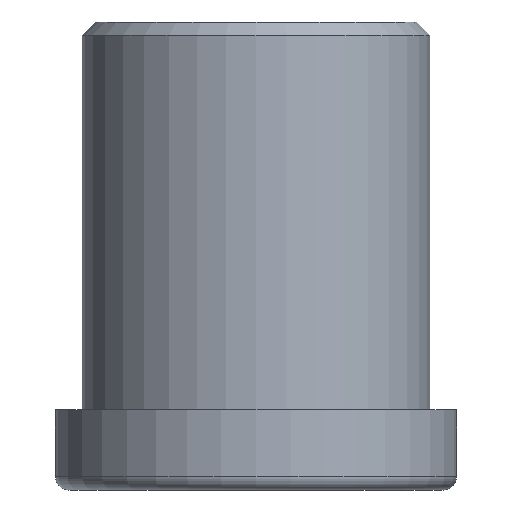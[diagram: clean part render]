
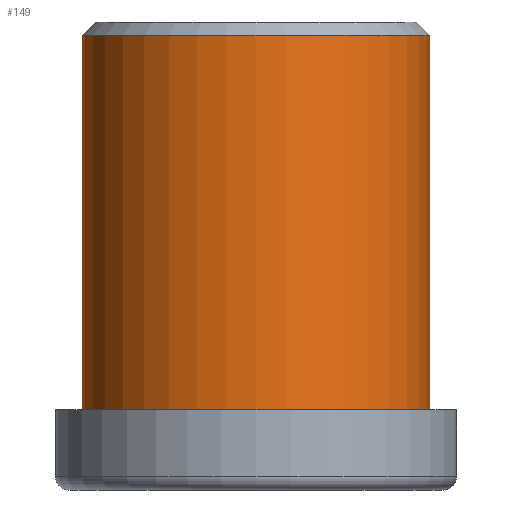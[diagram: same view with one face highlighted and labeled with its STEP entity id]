
A CAD part, front view. The second image highlights one B-rep face of the part: STEP entity #149.
In plain terms, the highlighted cylindrical face has radius 13 mm (diameter 26 mm), a full revolution.
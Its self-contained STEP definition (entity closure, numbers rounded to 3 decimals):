
#6 = CARTESIAN_POINT ( 'NONE',  ( 0., 0., 35. ) ) ;
#9 = CARTESIAN_POINT ( 'NONE',  ( 13., 0., 6. ) ) ;
#29 = CIRCLE ( 'NONE', #138, 13. ) ;
#39 = AXIS2_PLACEMENT_3D ( 'NONE', #6, #114, #79 ) ;
#45 = VERTEX_POINT ( 'NONE', #103 ) ;
#52 = DIRECTION ( 'NONE',  ( 0., 0., 1. ) ) ;
#53 = FACE_OUTER_BOUND ( 'NONE', #143, .T. ) ;
#67 = DIRECTION ( 'NONE',  ( 1., 0., 0. ) ) ;
#76 = AXIS2_PLACEMENT_3D ( 'NONE', #80, #52, #108 ) ;
#79 = DIRECTION ( 'NONE',  ( -1., 0., 0. ) ) ;
#80 = CARTESIAN_POINT ( 'NONE',  ( 0., 0., 6. ) ) ;
#82 = FACE_OUTER_BOUND ( 'NONE', #102, .T. ) ;
#94 = ORIENTED_EDGE ( 'NONE', *, *, #146, .T. ) ;
#102 = EDGE_LOOP ( 'NONE', ( #94 ) ) ;
#103 = CARTESIAN_POINT ( 'NONE',  ( 13., 0., 34. ) ) ;
#108 = DIRECTION ( 'NONE',  ( 1., 0., 0. ) ) ;
#114 = DIRECTION ( 'NONE',  ( 0., 0., -1. ) ) ;
#138 = AXIS2_PLACEMENT_3D ( 'NONE', #152, #189, #67 ) ;
#141 = VERTEX_POINT ( 'NONE', #9 ) ;
#143 = EDGE_LOOP ( 'NONE', ( #150 ) ) ;
#146 = EDGE_CURVE ( 'NONE', #141, #141, #154, .T. ) ;
#149 = ADVANCED_FACE ( 'NONE', ( #53, #82 ), #151, .T. ) ;
#150 = ORIENTED_EDGE ( 'NONE', *, *, #164, .T. ) ;
#151 = CYLINDRICAL_SURFACE ( 'NONE', #39, 13. ) ;
#152 = CARTESIAN_POINT ( 'NONE',  ( 0., 0., 34. ) ) ;
#154 = CIRCLE ( 'NONE', #76, 13. ) ;
#164 = EDGE_CURVE ( 'NONE', #45, #45, #29, .T. ) ;
#189 = DIRECTION ( 'NONE',  ( 0., 0., -1. ) ) ;
